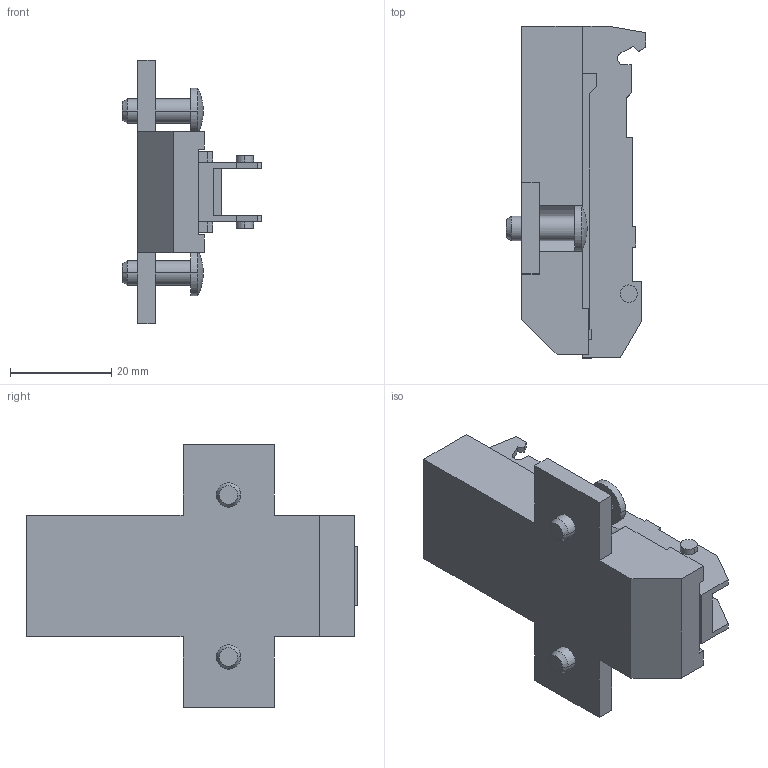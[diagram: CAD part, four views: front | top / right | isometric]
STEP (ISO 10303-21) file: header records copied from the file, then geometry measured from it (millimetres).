
FILE_DESCRIPTION (( 'STEP AP214' ), '1' );
FILE_NAME ('1D Kreuzmontageplatte_37_32_H14_Euro.STEP', '2011-08-18T14:02:24', ( '' ), ( '' ), 'SwSTEP 2.0', 'SolidWorks 2011', '' );
FILE_SCHEMA (( 'AUTOMOTIVE_DESIGN' ));
Length unit declared in the file: millimetre
Products named in the file (1): 1D Kreuzmontageplatte_37_32_H14_Euro
Bounding box: 27.5 x 65.55 x 52 mm (x, y, z)
Volume: 24335 mm3; surface area: 9549.5 mm2
Topology: 1 solids, 1 shells, 121 faces, 329 edges, 218 vertices
Faces by surface type: plane 93, cylinder 20, cone 4, sphere 4
Entity records: 3817 total; most frequent: CARTESIAN_POINT 669, ORIENTED_EDGE 658, DIRECTION 625, EDGE_CURVE 329, VECTOR 277, LINE 277, VERTEX_POINT 218, AXIS2_PLACEMENT_3D 174
